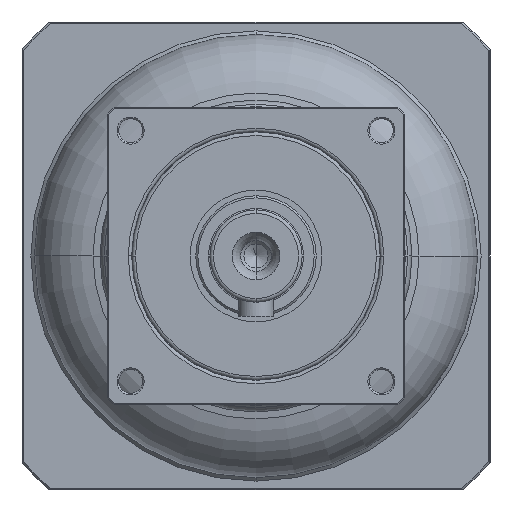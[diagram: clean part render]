
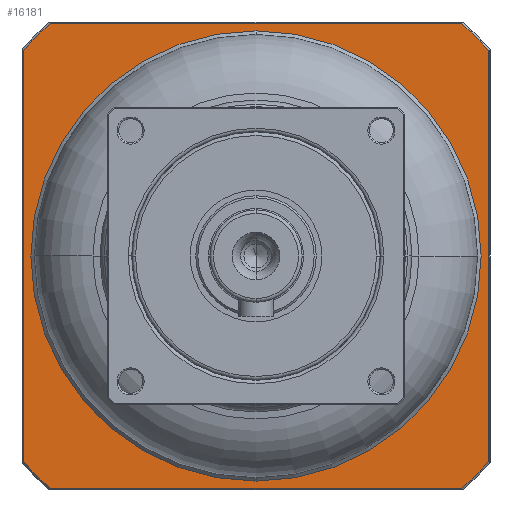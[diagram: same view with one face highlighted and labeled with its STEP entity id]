
A CAD part, left-side view. The second image highlights one B-rep face of the part: STEP entity #16181.
In plain terms, the highlighted planar face has unit normal (-1, 0, 0) as drawn and (0, 0, -1) by its records, which use the part's own axes.
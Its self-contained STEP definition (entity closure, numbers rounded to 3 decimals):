
#15057=CARTESIAN_POINT('',(0.,0.,
2.));
#15058=DIRECTION('',(0.,0.,-1.));
#15059=DIRECTION('',(0.,-1.,0.));
#15060=AXIS2_PLACEMENT_3D('',#15057,#15058,#15059);
#15062=CARTESIAN_POINT('',(0.,0.,
2.));
#15063=DIRECTION('',(0.,0.,-1.));
#15064=DIRECTION('',(0.,1.,0.));
#15065=AXIS2_PLACEMENT_3D('',#15062,#15063,#15064);
#15067=CARTESIAN_POINT('',(0.,0.,2.));
#15068=DIRECTION('',(0.,0.,1.));
#15069=DIRECTION('',(-0.749,-0.663,0.));
#15070=AXIS2_PLACEMENT_3D('',#15067,#15068,#15069);
#15072=DIRECTION('',(1.,0.,0.));
#15073=VECTOR('',#15072,58.055);
#15074=CARTESIAN_POINT('',(-29.028,-32.8,
2.));
#15075=LINE('',#15074,#15073);
#15076=CARTESIAN_POINT('',(0.,0.,2.));
#15077=DIRECTION('',(0.,0.,1.));
#15078=DIRECTION('',(0.663,-0.749,0.));
#15079=AXIS2_PLACEMENT_3D('',#15076,#15077,#15078);
#15081=DIRECTION('',(0.,1.,0.));
#15082=VECTOR('',#15081,58.055);
#15083=CARTESIAN_POINT('',(32.8,-29.028,
2.));
#15084=LINE('',#15083,#15082);
#15085=CARTESIAN_POINT('',(0.,0.,2.));
#15086=DIRECTION('',(0.,0.,1.));
#15087=DIRECTION('',(0.749,0.663,0.));
#15088=AXIS2_PLACEMENT_3D('',#15085,#15086,#15087);
#15090=DIRECTION('',(-1.,0.,0.));
#15091=VECTOR('',#15090,58.055);
#15092=CARTESIAN_POINT('',(29.028,32.8,2.));
#15093=LINE('',#15092,#15091);
#15094=CARTESIAN_POINT('',(0.,0.,2.));
#15095=DIRECTION('',(0.,0.,1.));
#15096=DIRECTION('',(-0.663,0.749,0.));
#15097=AXIS2_PLACEMENT_3D('',#15094,#15095,#15096);
#15099=DIRECTION('',(0.,-1.,0.));
#15100=VECTOR('',#15099,58.055);
#15101=CARTESIAN_POINT('',(-32.8,29.028,
2.));
#15102=LINE('',#15101,#15100);
#15836=CARTESIAN_POINT('',(0.,-31.75,2.));
#15837=CARTESIAN_POINT('',(0.,31.75,2.));
#15838=VERTEX_POINT('',#15836);
#15839=VERTEX_POINT('',#15837);
#15908=CARTESIAN_POINT('',(-32.8,-29.028,2.));
#15909=CARTESIAN_POINT('',(-29.028,-32.8,2.));
#15910=VERTEX_POINT('',#15908);
#15911=VERTEX_POINT('',#15909);
#15916=CARTESIAN_POINT('',(29.028,-32.8,
2.));
#15917=VERTEX_POINT('',#15916);
#15920=CARTESIAN_POINT('',(32.8,-29.028,2.));
#15921=VERTEX_POINT('',#15920);
#15924=CARTESIAN_POINT('',(32.8,29.028,2.));
#15925=VERTEX_POINT('',#15924);
#15928=CARTESIAN_POINT('',(29.028,32.8,2.));
#15929=VERTEX_POINT('',#15928);
#15932=CARTESIAN_POINT('',(-29.028,32.8,
2.));
#15933=VERTEX_POINT('',#15932);
#15938=CARTESIAN_POINT('',(-32.8,29.028,2.));
#15939=VERTEX_POINT('',#15938);
#16153=CARTESIAN_POINT('',(0.,0.,2.));
#16154=DIRECTION('',(0.,0.,1.));
#16155=DIRECTION('',(0.,1.,0.));
#16156=AXIS2_PLACEMENT_3D('',#16153,#16154,#16155);
#16157=PLANE('',#16156);
#16159=ORIENTED_EDGE('',*,*,#16158,.T.);
#16161=ORIENTED_EDGE('',*,*,#16160,.T.);
#16163=ORIENTED_EDGE('',*,*,#16162,.T.);
#16165=ORIENTED_EDGE('',*,*,#16164,.T.);
#16167=ORIENTED_EDGE('',*,*,#16166,.T.);
#16169=ORIENTED_EDGE('',*,*,#16168,.T.);
#16171=ORIENTED_EDGE('',*,*,#16170,.T.);
#16173=ORIENTED_EDGE('',*,*,#16172,.T.);
#16174=EDGE_LOOP('',(#16159,#16161,#16163,#16165,#16167,#16169,#16171,#16173));
#16175=FACE_OUTER_BOUND('',#16174,.F.);
#16177=ORIENTED_EDGE('',*,*,#16176,.T.);
#16178=ORIENTED_EDGE('',*,*,#16143,.T.);
#16179=EDGE_LOOP('',(#16177,#16178));
#16180=FACE_BOUND('',#16179,.F.);
#16181=ADVANCED_FACE('',(#16175,#16180),#16157,.F.);
#15061=CIRCLE('',#15060,31.75);
#15066=CIRCLE('',#15065,31.75);
#15071=CIRCLE('',#15070,43.8);
#15080=CIRCLE('',#15079,43.8);
#15089=CIRCLE('',#15088,43.8);
#15098=CIRCLE('',#15097,43.8);
#16143=EDGE_CURVE('',#15839,#15838,#15066,.T.);
#16158=EDGE_CURVE('',#15910,#15911,#15071,.T.);
#16160=EDGE_CURVE('',#15911,#15917,#15075,.T.);
#16162=EDGE_CURVE('',#15917,#15921,#15080,.T.);
#16164=EDGE_CURVE('',#15921,#15925,#15084,.T.);
#16166=EDGE_CURVE('',#15925,#15929,#15089,.T.);
#16168=EDGE_CURVE('',#15929,#15933,#15093,.T.);
#16170=EDGE_CURVE('',#15933,#15939,#15098,.T.);
#16172=EDGE_CURVE('',#15939,#15910,#15102,.T.);
#16176=EDGE_CURVE('',#15838,#15839,#15061,.T.);
